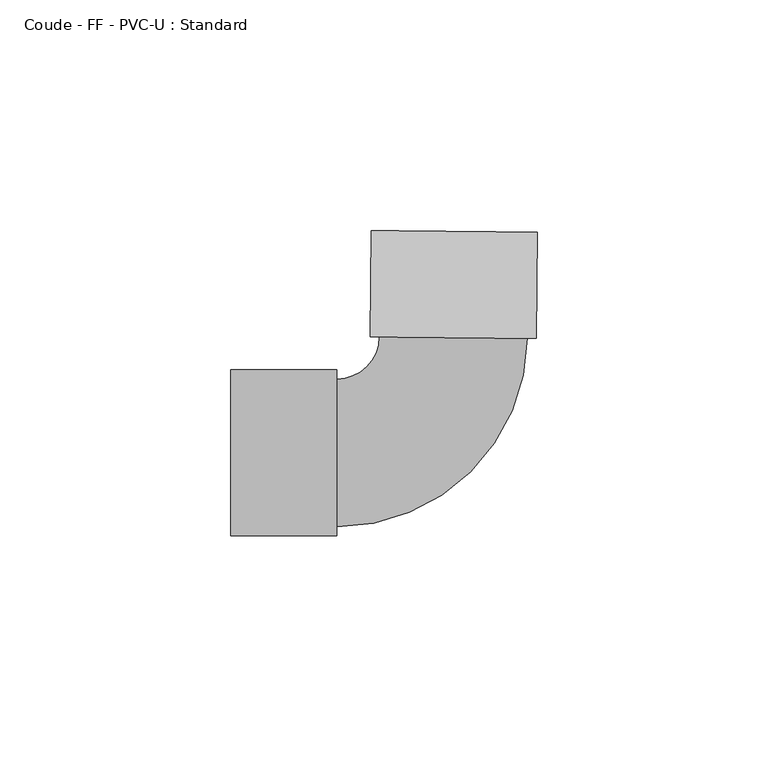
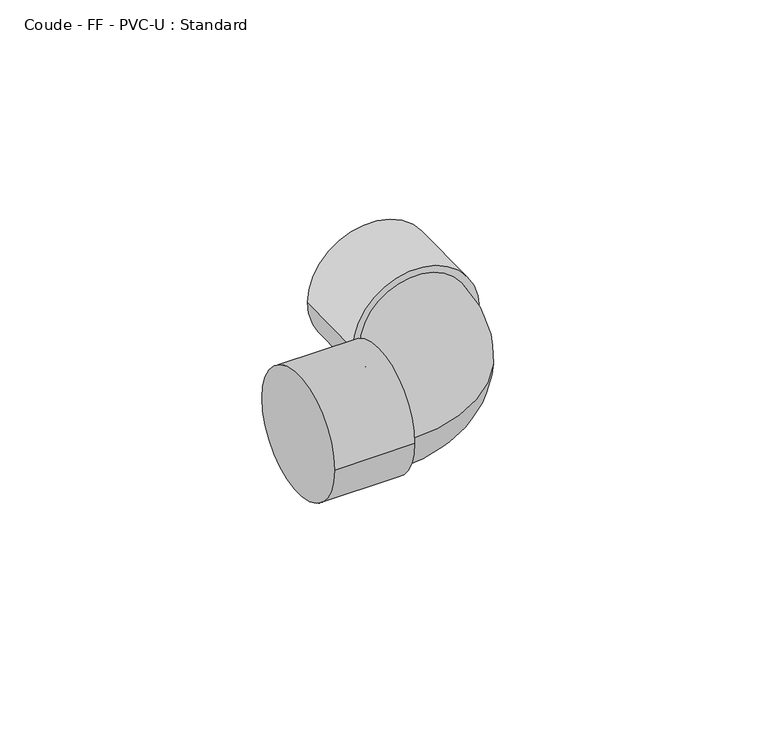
"""IFC4 building model written with IfcOpenShell, lengths in millimetres: pipe fitting geometry, Coude - FF - PVC-U : Standard."""

from ifc_helpers import new_model, si_unit, point, frame, origin, place, context, project, spatial, circle_curve, ellipse_curve, trimmed, source, transform, mapped, element, save
from ifc_brep_helpers import plane_surface, cylinder_surface, revolved_surface, advanced_brep


def coude_ff_pvc_u_standard_627cca31(model_context):
    return source(origin(), model_context, "Body", "AdvancedBrep", [
        advanced_brep(
        [(-48.0, -18.0, 0.0), (-48.0, 18.0, 0.0), (-25.0, -18.0, 0.0), (-25.0, 18.0, 0.0), (-25.0, -16.0, 0.0), (-25.0, 16.0, 0.0), (-15.7492126, 25.1587421, 0.0), (16.2491876, 24.8387581, 0.0), (18.2490876, 24.8187591, 0.0), (-17.7491126, 25.1787411, 0.0), (18.4790761, 47.8176092, 0.0), (-17.5191241, 48.1775912, 0.0)],
        [
            (0, 1, circle_curve(frame((-48.0, 0.0, 0.0), z_axis=(-1.0, 0.0, 0.0), x_axis=(0.0, 1.0, 0.0)), 18.0)),
            (1, 0, circle_curve(frame((-48.0, 0.0, 0.0), z_axis=(-1.0, 0.0, 0.0), x_axis=(0.0, 1.0, 0.0)), 18.0)),
            (2, 3, circle_curve(frame((-25.0, 0.0, 0.0), z_axis=(1.0, 0.0, 0.0), x_axis=(0.0, 1.0, 0.0)), 18.0)),
            (3, 2, circle_curve(frame((-25.0, 0.0, 0.0), z_axis=(1.0, 0.0, 0.0), x_axis=(0.0, 1.0, 0.0)), 18.0)),
            (4, 5, circle_curve(frame((-25.0, 0.0, 0.0), z_axis=(-1.0, 0.0, 0.0), x_axis=(0.0, 1.0, 0.0)), 16.0)),
            (5, 4, circle_curve(frame((-25.0, 0.0, 0.0), z_axis=(-1.0, 0.0, 0.0), x_axis=(0.0, 1.0, 0.0)), 16.0)),
            (0, 2),
            (3, 1),
            (6, 5, circle_curve(frame((-25.0, 25.25125, 0.0), z_axis=(0.0, 0.0, -1.0), x_axis=(0.0, -1.0, 0.0)), 9.25125)),
            (4, 7, circle_curve(frame((-25.0, 25.25125, 0.0), z_axis=(0.0, 0.0, 1.0), x_axis=(0.0, -1.0, 0.0)), 41.25125)),
            (7, 6, circle_curve(frame((0.2499875, 24.9987501, 0.0), z_axis=(-0.009999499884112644, -0.9999500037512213, 0.0), x_axis=(-0.9999500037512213, 0.009999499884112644, 0.0)), 16.0)),
            (6, 7, circle_curve(frame((0.2499875, 24.9987501, 0.0), z_axis=(-0.009999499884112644, -0.9999500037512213, 0.0), x_axis=(-0.9999500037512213, 0.009999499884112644, 0.0)), 16.0)),
            (8, 9, circle_curve(frame((0.2499875, 24.9987501, 0.0), z_axis=(-0.009999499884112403, -0.9999500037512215, 0.0), x_axis=(-0.9999500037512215, 0.009999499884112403, 0.0)), 18.0)),
            (9, 8, circle_curve(frame((0.2499875, 24.9987501, 0.0), z_axis=(-0.009999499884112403, -0.9999500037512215, 0.0), x_axis=(-0.9999500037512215, 0.009999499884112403, 0.0)), 18.0)),
            (10, 11, circle_curve(frame((0.479976, 47.9976002, 0.0), z_axis=(0.009999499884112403, 0.9999500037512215, 0.0), x_axis=(-0.9999500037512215, 0.009999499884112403, 0.0)), 18.0)),
            (11, 10, circle_curve(frame((0.479976, 47.9976002, 0.0), z_axis=(0.009999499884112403, 0.9999500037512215, 0.0), x_axis=(-0.9999500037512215, 0.009999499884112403, 0.0)), 18.0)),
            (8, 10),
            (11, 9),
        ],
        [
            plane_surface(frame((-48.0, 0.0, 0.0), z_axis=(-1.0, 0.0, 0.0), x_axis=(0.0, 0.0, 1.0))),
            plane_surface(frame((-25.0, 0.0, 0.0), z_axis=(1.0, 0.0, 0.0), x_axis=(0.0, 0.0, 1.0))),
            cylinder_surface(frame((-48.0, 0.0, 0.0), z_axis=(-1.0, 0.0, 0.0), x_axis=(0.0, 1.0, 0.0)), 18.0),
            revolved_surface(trimmed(ellipse_curve(frame((-25.0, 0.0, 0.0), z_axis=(-1.0, 0.0, 0.0), x_axis=(0.0, 1.0, 0.0)), 16.0, 16.0), [point((-25.0, -16.0, 0.0))], [point((-25.0, 16.0, 0.0))], True, "CARTESIAN"), (-25.0, 25.25125, 0.0), (0.0, 0.0, 1.0)),
            revolved_surface(trimmed(ellipse_curve(frame((-25.0, 0.0, 0.0), z_axis=(-1.0, 0.0, 0.0), x_axis=(0.0, 1.0, 0.0)), 16.0, 16.0), [point((-25.0, 16.0, 0.0))], [point((-25.0, -16.0, 0.0))], True, "CARTESIAN"), (-25.0, 25.25125, 0.0), (0.0, 0.0, 1.0)),
            plane_surface(frame((0.2499875, 24.9987501, 0.0), z_axis=(-0.009999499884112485, -0.9999500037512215, 0.0), x_axis=(0.0, 0.0, 1.0))),
            plane_surface(frame((0.479976, 47.9976002, 0.0), z_axis=(0.009999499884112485, 0.9999500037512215, 0.0), x_axis=(0.0, 0.0, 1.0))),
            cylinder_surface(frame((0.2499875, 24.9987501, 0.0), z_axis=(-0.009999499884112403, -0.9999500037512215, 0.0), x_axis=(-0.9999500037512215, 0.009999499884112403, 0.0)), 18.0),
        ],
        [
            (0, [[1, 2]]),
            (1, [[3, 4], [5, 6]]),
            (2, [[-1, 7, -4, 8]]),
            (2, [[-2, -8, -3, -7]]),
            (3, [[9, -5, 10, 11]]),
            (4, [[-9, 12, -10, -6]]),
            (5, [[13, 14], [-11, -12]]),
            (6, [[15, 16]]),
            (7, [[-13, 17, -16, 18]]),
            (7, [[-14, -18, -15, -17]]),
        ],
    ),
    ])


if __name__ == "__main__":
    model = new_model("IFC4")
    model_context = context("Model", 3, world=origin())
    ifc_project = project(units=[si_unit("LENGTHUNIT", "METRE", prefix="MILLI")], contexts=[model_context])
    site = spatial("IfcSite", under=ifc_project)
    building = spatial("IfcBuilding", under=site)
    placement = place(None, origin())
    coude_ff_pvc_u_standard_shape = coude_ff_pvc_u_standard_627cca31(model_context)
    element("IfcPipeFitting", 1, ObjectType="Coude - FF - PVC-U : Standard", at=placement, inside=building, context=model_context, shape_type="MappedRepresentation", body=[
        mapped(coude_ff_pvc_u_standard_shape, transform((0.0, 0.0, 0.0), x_axis=(1.0, 0.0, 0.0), y_axis=(0.0, 1.0, 0.0), z_axis=(0.0, 0.0, 1.0))),
    ])
    save(model, "model.ifc")
